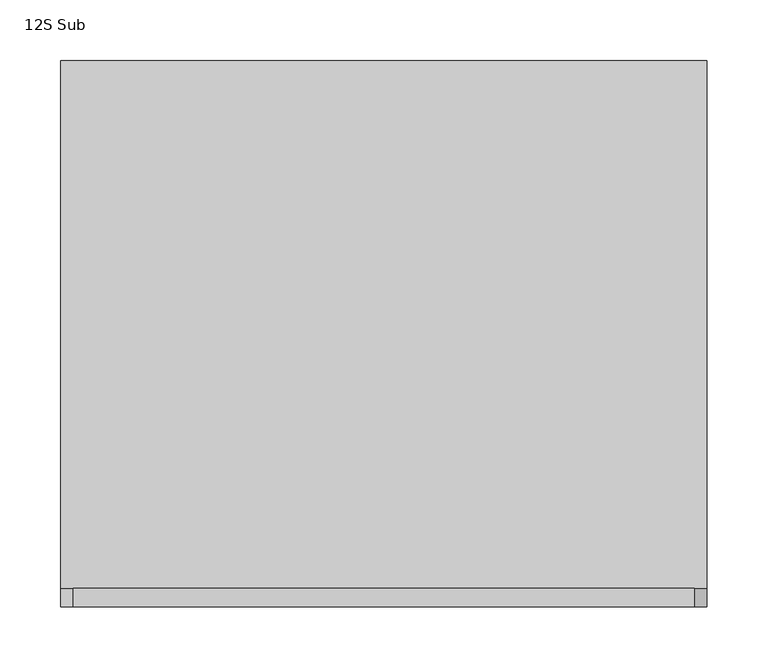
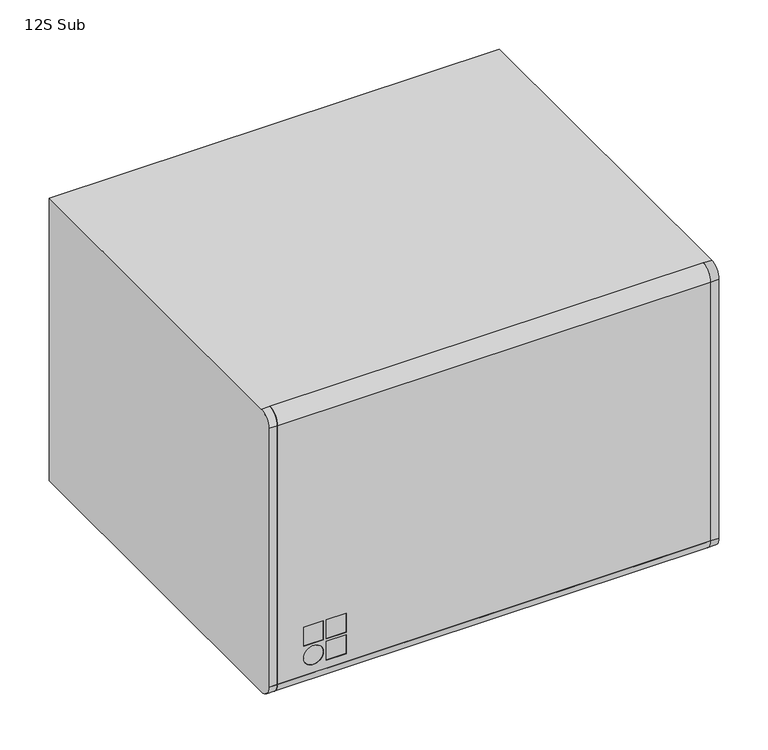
"""IFC4 building model written with IfcOpenShell, lengths in millimetres: proxy geometry, d&b xS-Series 12S Subwoofer : 12S Sub."""

from ifc_helpers import new_model, si_unit, point, frame, frame_2d, origin, place, context, project, spatial, polyline, circle_curve, trimmed, segment, composite_curve, outline, extrude, source, transform, mapped, element, save
from ifc_brep_helpers import plane_surface, cylinder_surface, revolved_surface, advanced_brep


def proxy_12s_sub_2a9edee9(model_context):
    return source(origin(), model_context, "Body", "SolidModel", [
        advanced_brep(
        [(255.0, -224.0, -161.0), (255.0, -209.0, -176.0), (255.0, -209.0, -171.0), (255.0, -219.0, -161.0), (255.0, -219.0, 161.0), (255.0, -209.0, 171.0), (255.0, -209.0, 176.0), (255.0, -224.0, 161.0), (-255.0, -224.0, -161.0), (-255.0, -224.0, 161.0), (-255.0, -209.0, 176.0), (-255.0, -209.0, 171.0), (-255.0, -219.0, 161.0), (-255.0, -219.0, -161.0), (-255.0, -209.0, -171.0), (-255.0, -209.0, -176.0), (-200.6666667, -224.0, -101.0), (-200.6666667, -224.0, -124.3333333), (-224.0, -224.0, -124.3333333), (-224.0, -224.0, -101.0), (-174.0, -224.0, -101.0), (-174.0, -224.0, -124.3333333), (-197.3333333, -224.0, -124.3333333), (-197.3333333, -224.0, -101.0), (-174.0, -224.0, -127.6666667), (-174.0, -224.0, -151.0), (-197.3333333, -224.0, -151.0), (-197.3333333, -224.0, -127.6666667), (-224.0, -224.0, -139.3333333), (-200.6666667, -224.0, -139.3333333), (-200.6666667, -219.0, -124.3333333), (-200.6666667, -219.0, -101.0), (-224.0, -219.0, -101.0), (-224.0, -219.0, -124.3333333), (-174.0, -219.0, -124.3333333), (-174.0, -219.0, -101.0), (-197.3333333, -219.0, -101.0), (-197.3333333, -219.0, -124.3333333), (-174.0, -219.0, -151.0), (-174.0, -219.0, -127.6666667), (-197.3333333, -219.0, -127.6666667), (-197.3333333, -219.0, -151.0), (-200.6666667, -219.0, -139.3333333), (-224.0, -219.0, -139.3333333)],
        [
            (0, 1, circle_curve(frame((255.0, -209.0, -161.0), z_axis=(1.0, 0.0, 0.0), x_axis=(0.0, 1.0, 0.0)), 15.0)),
            (1, 2),
            (2, 3, circle_curve(frame((255.0, -209.0, -161.0), z_axis=(-1.0, 0.0, 0.0), x_axis=(0.0, 1.0, 0.0)), 10.0)),
            (3, 4),
            (4, 5, circle_curve(frame((255.0, -209.0, 161.0), z_axis=(-1.0, 0.0, 0.0), x_axis=(0.0, 1.0, 0.0)), 10.0)),
            (5, 6),
            (6, 7, circle_curve(frame((255.0, -209.0, 161.0), z_axis=(1.0, 0.0, 0.0), x_axis=(0.0, 1.0, 0.0)), 15.0)),
            (7, 0),
            (8, 9),
            (9, 10, circle_curve(frame((-255.0, -209.0, 161.0), z_axis=(-1.0, 0.0, 0.0), x_axis=(0.0, 1.0, 0.0)), 15.0)),
            (10, 11),
            (11, 12, circle_curve(frame((-255.0, -209.0, 161.0), z_axis=(1.0, 0.0, 0.0), x_axis=(0.0, 1.0, 0.0)), 10.0)),
            (12, 13),
            (13, 14, circle_curve(frame((-255.0, -209.0, -161.0), z_axis=(1.0, 0.0, 0.0), x_axis=(0.0, 1.0, 0.0)), 10.0)),
            (14, 15),
            (15, 8, circle_curve(frame((-255.0, -209.0, -161.0), z_axis=(-1.0, 0.0, 0.0), x_axis=(0.0, 1.0, 0.0)), 15.0)),
            (6, 10),
            (9, 7),
            (8, 0),
            (16, 17),
            (17, 18),
            (18, 19),
            (19, 16),
            (20, 21),
            (21, 22),
            (22, 23),
            (23, 20),
            (24, 25),
            (25, 26),
            (26, 27),
            (27, 24),
            (28, 29, circle_curve(frame((-212.3333333, -224.0, -139.3333333), z_axis=(0.0, 1.0, 0.0), x_axis=(1.0, 0.0, 0.0)), 11.6666667)),
            (29, 28, circle_curve(frame((-212.3333333, -224.0, -139.3333333), z_axis=(0.0, 1.0, 0.0), x_axis=(1.0, 0.0, 0.0)), 11.6666667)),
            (15, 1),
            (14, 2),
            (13, 3),
            (12, 4),
            (30, 31),
            (31, 32),
            (32, 33),
            (33, 30),
            (34, 35),
            (35, 36),
            (36, 37),
            (37, 34),
            (38, 39),
            (39, 40),
            (40, 41),
            (41, 38),
            (42, 43, circle_curve(frame((-212.3333333, -219.0, -139.3333333), z_axis=(0.0, -1.0, 0.0), x_axis=(1.0, 0.0, 0.0)), 11.6666667)),
            (43, 42, circle_curve(frame((-212.3333333, -219.0, -139.3333333), z_axis=(0.0, -1.0, 0.0), x_axis=(1.0, 0.0, 0.0)), 11.6666667)),
            (11, 5),
            (16, 31),
            (30, 17),
            (33, 18),
            (32, 19),
            (20, 35),
            (34, 21),
            (37, 22),
            (36, 23),
            (24, 39),
            (38, 25),
            (41, 26),
            (40, 27),
            (28, 43),
            (42, 29),
        ],
        [
            plane_surface(frame((255.0, -194.0, -161.0), z_axis=(1.0, 0.0, 0.0), x_axis=(0.0, 0.0, 1.0))),
            plane_surface(frame((-255.0, -194.0, -161.0), z_axis=(-1.0, 0.0, 0.0), x_axis=(0.0, 0.0, -1.0))),
            cylinder_surface(frame((-255.0, -209.0, 161.0), z_axis=(1.0, 0.0, 0.0), x_axis=(0.0, 1.0, 0.0)), 15.0),
            plane_surface(frame((255.0, -224.0, 161.0), z_axis=(0.0, -1.0, 0.0), x_axis=(-1.0, 0.0, 0.0))),
            cylinder_surface(frame((-255.0, -209.0, -161.0), z_axis=(1.0, 0.0, 0.0), x_axis=(0.0, 1.0, 0.0)), 15.0),
            plane_surface(frame((255.0, -209.0, -176.0), z_axis=(0.0, 1.0, 0.0), x_axis=(-1.0, 0.0, 0.0))),
            revolved_surface(polyline([(-255.0, -199.0, -161.0), (255.0, -199.0, -161.0)]), (-255.0, -209.0, -161.0), (-1.0, 0.0, 0.0)),
            plane_surface(frame((255.0, -219.0, -161.0), z_axis=(0.0, 1.0, 0.0), x_axis=(-1.0, 0.0, 0.0))),
            revolved_surface(polyline([(-255.0, -199.0, 161.0), (255.0, -199.0, 161.0)]), (-255.0, -209.0, 161.0), (-1.0, 0.0, 0.0)),
            plane_surface(frame((255.0, -209.0, 171.0), z_axis=(0.0, 1.0, 0.0), x_axis=(-1.0, 0.0, 0.0))),
            plane_surface(frame((-200.6666667, -224.0, -124.3333333), z_axis=(-1.0, 0.0, 0.0), x_axis=(0.0, 1.0, 0.0))),
            plane_surface(frame((-224.0, -224.0, -124.3333333), z_axis=(0.0, 0.0, 1.0), x_axis=(0.0, 1.0, 0.0))),
            plane_surface(frame((-224.0, -224.0, -101.0), z_axis=(1.0, 0.0, 0.0), x_axis=(0.0, 1.0, 0.0))),
            plane_surface(frame((-200.6666667, -224.0, -101.0), z_axis=(0.0, 0.0, -1.0), x_axis=(0.0, 1.0, 0.0))),
            plane_surface(frame((-174.0, -224.0, -124.3333333), z_axis=(-1.0, 0.0, 0.0), x_axis=(0.0, 1.0, 0.0))),
            plane_surface(frame((-197.3333333, -224.0, -124.3333333), z_axis=(0.0, 0.0, 1.0), x_axis=(0.0, 1.0, 0.0))),
            plane_surface(frame((-197.3333333, -224.0, -101.0), z_axis=(1.0, 0.0, 0.0), x_axis=(0.0, 1.0, 0.0))),
            plane_surface(frame((-174.0, -224.0, -101.0), z_axis=(0.0, 0.0, -1.0), x_axis=(0.0, 1.0, 0.0))),
            plane_surface(frame((-174.0, -224.0, -151.0), z_axis=(-1.0, 0.0, 0.0), x_axis=(0.0, 1.0, 0.0))),
            plane_surface(frame((-197.3333333, -224.0, -151.0), z_axis=(0.0, 0.0, 1.0), x_axis=(0.0, 1.0, 0.0))),
            plane_surface(frame((-197.3333333, -224.0, -127.6666667), z_axis=(1.0, 0.0, 0.0), x_axis=(0.0, 1.0, 0.0))),
            plane_surface(frame((-174.0, -224.0, -127.6666667), z_axis=(0.0, 0.0, -1.0), x_axis=(0.0, 1.0, 0.0))),
            revolved_surface(polyline([(-200.66666659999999, -224.0, -139.3333333), (-200.66666659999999, -219.0, -139.3333333)]), (-212.3333333, -224.0, -139.3333333), (0.0, -1.0, 0.0)),
        ],
        [
            (0, [[1, 2, 3, 4, 5, 6, 7, 8]]),
            (1, [[9, 10, 11, 12, 13, 14, 15, 16]]),
            (2, [[-7, 17, -10, 18]]),
            (3, [[-8, -18, -9, 19], [20, 21, 22, 23], [24, 25, 26, 27], [28, 29, 30, 31], [32, 33]]),
            (4, [[-1, -19, -16, 34]]),
            (5, [[-2, -34, -15, 35]]),
            (6, [[-3, -35, -14, 36]]),
            (7, [[-4, -36, -13, 37], [38, 39, 40, 41], [42, 43, 44, 45], [46, 47, 48, 49], [50, 51]]),
            (8, [[-5, -37, -12, 52]]),
            (9, [[-6, -52, -11, -17]]),
            (10, [[53, -38, 54, -20]]),
            (11, [[-54, -41, 55, -21]]),
            (12, [[-55, -40, 56, -22]]),
            (13, [[-53, -23, -56, -39]]),
            (14, [[57, -42, 58, -24]]),
            (15, [[-58, -45, 59, -25]]),
            (16, [[-59, -44, 60, -26]]),
            (17, [[-57, -27, -60, -43]]),
            (18, [[61, -46, 62, -28]]),
            (19, [[-62, -49, 63, -29]]),
            (20, [[-63, -48, 64, -30]]),
            (21, [[-61, -31, -64, -47]]),
            (22, [[65, -50, 66, -32]]),
            (22, [[-65, -33, -66, -51]]),
        ],
    ),
        extrude(outline(composite_curve([segment(trimmed(circle_curve(frame_2d((-220.0, 189.0)), 18.25), [point((-201.75, 189.0))], [point((-238.25, 189.0))], False, "CARTESIAN"), True, "CONTINUOUS"), segment(trimmed(circle_curve(frame_2d((-220.0, 189.0)), 18.25), [point((-238.25, 189.0))], [point((-201.75, 189.0))], False, "CARTESIAN"), True, "CONTINUOUS")], self_intersect=False)), frame((0.0, 0.0, -178.0), z_axis=(0.0, 0.0, 1.0), x_axis=(1.0, 0.0, 0.0)), (0.0, 0.0, 1.0), 2.0),
        extrude(outline(composite_curve([segment(trimmed(circle_curve(frame_2d((220.0, 189.0)), 18.25), [point((238.25, 189.0))], [point((201.75, 189.0))], False, "CARTESIAN"), True, "CONTINUOUS"), segment(trimmed(circle_curve(frame_2d((220.0, 189.0)), 18.25), [point((201.75, 189.0))], [point((238.25, 189.0))], False, "CARTESIAN"), True, "CONTINUOUS")], self_intersect=False)), frame((0.0, 0.0, -178.0), z_axis=(0.0, 0.0, 1.0), x_axis=(1.0, 0.0, 0.0)), (0.0, 0.0, 1.0), 2.0),
        extrude(outline(composite_curve([segment(trimmed(circle_curve(frame_2d((-220.0, -165.5)), 18.25), [point((-201.75, -165.5))], [point((-238.25, -165.5))], False, "CARTESIAN"), True, "CONTINUOUS"), segment(trimmed(circle_curve(frame_2d((-220.0, -165.5)), 18.25), [point((-238.25, -165.5))], [point((-201.75, -165.5))], False, "CARTESIAN"), True, "CONTINUOUS")], self_intersect=False)), frame((0.0, 0.0, -178.0), z_axis=(0.0, 0.0, 1.0), x_axis=(1.0, 0.0, 0.0)), (0.0, 0.0, 1.0), 2.0),
        extrude(outline(composite_curve([segment(trimmed(circle_curve(frame_2d((220.0, -165.5)), 18.25), [point((238.25, -165.5))], [point((201.75, -165.5))], False, "CARTESIAN"), True, "CONTINUOUS"), segment(trimmed(circle_curve(frame_2d((220.0, -165.5)), 18.25), [point((201.75, -165.5))], [point((238.25, -165.5))], False, "CARTESIAN"), True, "CONTINUOUS")], self_intersect=False)), frame((0.0, 0.0, -178.0), z_axis=(0.0, 0.0, 1.0), x_axis=(1.0, 0.0, 0.0)), (0.0, 0.0, 1.0), 2.0),
        extrude(outline(polyline([(-200.6666667, -224.0), (-224.0, -224.0), (-224.0, -219.0), (-200.6666667, -219.0), (-200.6666667, -224.0)])), frame((0.0, 0.0, -124.3333333), z_axis=(0.0, 0.0, 1.0), x_axis=(1.0, 0.0, 0.0)), (0.0, 0.0, 1.0), 23.3333333),
        extrude(outline(polyline([(-174.0, -224.0), (-197.3333333, -224.0), (-197.3333333, -219.0), (-174.0, -219.0), (-174.0, -224.0)])), frame((0.0, 0.0, -124.3333333), z_axis=(0.0, 0.0, 1.0), x_axis=(1.0, 0.0, 0.0)), (0.0, 0.0, 1.0), 23.3333333),
        extrude(outline(polyline([(-174.0, -224.0), (-197.3333333, -224.0), (-197.3333333, -219.0), (-174.0, -219.0), (-174.0, -224.0)])), frame((0.0, 0.0, -151.0), z_axis=(0.0, 0.0, 1.0), x_axis=(1.0, 0.0, 0.0)), (0.0, 0.0, 1.0), 23.3333333),
        extrude(outline(composite_curve([segment(trimmed(circle_curve(frame_2d((-139.3333333, -212.3333333)), 11.6666667), [point((-139.3333333, -224.0))], [point((-139.3333333, -200.6666667))], False, "CARTESIAN"), True, "CONTINUOUS"), segment(trimmed(circle_curve(frame_2d((-139.3333333, -212.3333333)), 11.6666667), [point((-139.3333333, -200.6666667))], [point((-139.3333333, -224.0))], False, "CARTESIAN"), True, "CONTINUOUS")], self_intersect=False)), frame((0.0, -224.0, 0.0), z_axis=(0.0, 1.0, 0.0), x_axis=(0.0, 0.0, 1.0)), (0.0, 0.0, 1.0), 5.0),
        advanced_brep(
        [(255.0, -209.0, -176.0), (-255.0, -209.0, -176.0), (-265.0, -209.0, -176.0), (-265.0, 224.0, -176.0), (265.0, 224.0, -176.0), (265.0, -209.0, -176.0), (265.0, 224.0, 176.0), (-265.0, 224.0, 176.0), (45.0, 224.0, -145.0), (55.0, 224.0, -135.0), (55.0, 224.0, -85.0), (45.0, 224.0, -75.0), (-45.0, 224.0, -75.0), (-55.0, 224.0, -85.0), (-55.0, 224.0, -135.0), (-45.0, 224.0, -145.0), (-255.0, -209.0, 176.0), (255.0, -209.0, 176.0), (265.0, -209.0, 176.0), (-265.0, -209.0, 176.0), (-255.0, -209.0, 171.0), (255.0, -209.0, 171.0), (-255.0, -219.0, 161.0), (255.0, -219.0, 161.0), (-255.0, -219.0, -161.0), (255.0, -219.0, -161.0), (-255.0, -209.0, -171.0), (255.0, -209.0, -171.0), (255.0, -224.0, -161.0), (255.0, -224.0, 161.0), (265.0, -224.0, 161.0), (265.0, -224.0, -161.0), (-255.0, -224.0, 161.0), (-255.0, -224.0, -161.0), (-265.0, -224.0, -161.0), (-265.0, -224.0, 161.0), (55.0, 221.0, -135.0), (45.0, 221.0, -145.0), (-45.0, 221.0, -145.0), (-55.0, 221.0, -135.0), (-55.0, 221.0, -85.0), (-45.0, 221.0, -75.0), (45.0, 221.0, -75.0), (55.0, 221.0, -85.0), (35.0, 221.0, -85.0), (-35.0, 221.0, -85.0), (-45.0, 221.0, -95.0), (-45.0, 221.0, -125.0), (-35.0, 221.0, -135.0), (35.0, 221.0, -135.0), (45.0, 221.0, -125.0), (45.0, 221.0, -95.0), (-35.0, 211.0, -135.0), (-45.0, 211.0, -125.0), (-45.0, 211.0, -95.0), (-35.0, 211.0, -85.0), (-13.7960696, 211.0, -85.0), (-13.7960696, 211.0, -135.0), (35.0, 211.0, -135.0), (45.0, 211.0, -125.0), (35.0, 211.0, -85.0), (45.0, 211.0, -95.0), (-13.7960696, 176.0, -85.0), (35.0, 176.0, -85.0), (45.0, 176.0, -95.0), (45.0, 176.0, -125.0), (35.0, 176.0, -135.0), (-13.7960696, 176.0, -135.0)],
        [
            (0, 1),
            (1, 2),
            (2, 3),
            (3, 4),
            (4, 5),
            (5, 0),
            (6, 4),
            (3, 7),
            (7, 6),
            (8, 9, circle_curve(frame((45.0, 224.0, -135.0), z_axis=(0.0, -1.0, 0.0), x_axis=(-1.0, 0.0, 0.0)), 10.0)),
            (9, 10),
            (10, 11, circle_curve(frame((45.0, 224.0, -85.0), z_axis=(0.0, -1.0, 0.0), x_axis=(-1.0, 0.0, 0.0)), 10.0)),
            (11, 12),
            (12, 13, circle_curve(frame((-45.0, 224.0, -85.0), z_axis=(0.0, -1.0, 0.0), x_axis=(-1.0, 0.0, 0.0)), 10.0)),
            (13, 14),
            (14, 15, circle_curve(frame((-45.0, 224.0, -135.0), z_axis=(0.0, -1.0, 0.0), x_axis=(-1.0, 0.0, 0.0)), 10.0)),
            (15, 8),
            (16, 17),
            (17, 18),
            (18, 6),
            (7, 19),
            (19, 16),
            (16, 20),
            (20, 21),
            (21, 17),
            (20, 22, circle_curve(frame((-255.0, -209.0, 161.0), z_axis=(1.0, 0.0, 0.0), x_axis=(0.0, 1.0, 0.0)), 10.0)),
            (22, 23),
            (23, 21, circle_curve(frame((255.0, -209.0, 161.0), z_axis=(-1.0, 0.0, 0.0), x_axis=(0.0, 1.0, 0.0)), 10.0)),
            (22, 24),
            (24, 25),
            (25, 23),
            (24, 26, circle_curve(frame((-255.0, -209.0, -161.0), z_axis=(1.0, 0.0, 0.0), x_axis=(0.0, 1.0, 0.0)), 10.0)),
            (26, 27),
            (27, 25, circle_curve(frame((255.0, -209.0, -161.0), z_axis=(-1.0, 0.0, 0.0), x_axis=(0.0, 1.0, 0.0)), 10.0)),
            (0, 27),
            (26, 1),
            (0, 28, circle_curve(frame((255.0, -209.0, -161.0), z_axis=(-1.0, 0.0, 0.0), x_axis=(0.0, 1.0, 0.0)), 15.0)),
            (28, 29),
            (29, 17, circle_curve(frame((255.0, -209.0, 161.0), z_axis=(-1.0, 0.0, 0.0), x_axis=(0.0, 1.0, 0.0)), 15.0)),
            (18, 30, circle_curve(frame((265.0, -209.0, 161.0), z_axis=(1.0, 0.0, 0.0), x_axis=(0.0, 1.0, 0.0)), 15.0)),
            (30, 31),
            (31, 5, circle_curve(frame((265.0, -209.0, -161.0), z_axis=(1.0, 0.0, 0.0), x_axis=(0.0, 1.0, 0.0)), 15.0)),
            (29, 30),
            (28, 31),
            (16, 32, circle_curve(frame((-255.0, -209.0, 161.0), z_axis=(1.0, 0.0, 0.0), x_axis=(0.0, 1.0, 0.0)), 15.0)),
            (32, 33),
            (33, 1, circle_curve(frame((-255.0, -209.0, -161.0), z_axis=(1.0, 0.0, 0.0), x_axis=(0.0, 1.0, 0.0)), 15.0)),
            (2, 34, circle_curve(frame((-265.0, -209.0, -161.0), z_axis=(-1.0, 0.0, 0.0), x_axis=(0.0, 1.0, 0.0)), 15.0)),
            (34, 35),
            (35, 19, circle_curve(frame((-265.0, -209.0, 161.0), z_axis=(-1.0, 0.0, 0.0), x_axis=(0.0, 1.0, 0.0)), 15.0)),
            (35, 32),
            (34, 33),
            (36, 37, circle_curve(frame((45.0, 221.0, -135.0), z_axis=(0.0, 1.0, 0.0), x_axis=(-1.0, 0.0, 0.0)), 10.0)),
            (37, 38),
            (38, 39, circle_curve(frame((-45.0, 221.0, -135.0), z_axis=(0.0, 1.0, 0.0), x_axis=(-1.0, 0.0, 0.0)), 10.0)),
            (39, 40),
            (40, 41, circle_curve(frame((-45.0, 221.0, -85.0), z_axis=(0.0, 1.0, 0.0), x_axis=(-1.0, 0.0, 0.0)), 10.0)),
            (41, 42),
            (42, 43, circle_curve(frame((45.0, 221.0, -85.0), z_axis=(0.0, 1.0, 0.0), x_axis=(-1.0, 0.0, 0.0)), 10.0)),
            (43, 36),
            (44, 45),
            (45, 46, circle_curve(frame((-35.0, 221.0, -95.0), z_axis=(0.0, -1.0, 0.0), x_axis=(-1.0, 0.0, 0.0)), 10.0)),
            (46, 47),
            (47, 48, circle_curve(frame((-35.0, 221.0, -125.0), z_axis=(0.0, -1.0, 0.0), x_axis=(-1.0, 0.0, 0.0)), 10.0)),
            (48, 49),
            (49, 50, circle_curve(frame((35.0, 221.0, -125.0), z_axis=(0.0, -1.0, 0.0), x_axis=(-1.0, 0.0, 0.0)), 10.0)),
            (50, 51),
            (51, 44, circle_curve(frame((35.0, 221.0, -95.0), z_axis=(0.0, -1.0, 0.0), x_axis=(-1.0, 0.0, 0.0)), 10.0)),
            (36, 9),
            (8, 37),
            (15, 38),
            (14, 39),
            (13, 40),
            (12, 41),
            (11, 42),
            (10, 43),
            (52, 53, circle_curve(frame((-35.0, 211.0, -125.0), z_axis=(0.0, 1.0, 0.0), x_axis=(-1.0, 0.0, 0.0)), 10.0)),
            (53, 54),
            (54, 55, circle_curve(frame((-35.0, 211.0, -95.0), z_axis=(0.0, 1.0, 0.0), x_axis=(-1.0, 0.0, 0.0)), 10.0)),
            (55, 56),
            (56, 57),
            (57, 52),
            (54, 46),
            (45, 55),
            (53, 47),
            (52, 48),
            (49, 58),
            (58, 59, circle_curve(frame((35.0, 211.0, -125.0), z_axis=(0.0, -1.0, 0.0), x_axis=(-1.0, 0.0, 0.0)), 10.0)),
            (59, 50),
            (60, 44),
            (51, 61),
            (61, 60, circle_curve(frame((35.0, 211.0, -95.0), z_axis=(0.0, -1.0, 0.0), x_axis=(-1.0, 0.0, 0.0)), 10.0)),
            (62, 63),
            (63, 64, circle_curve(frame((35.0, 176.0, -95.0), z_axis=(0.0, 1.0, 0.0), x_axis=(-1.0, 0.0, 0.0)), 10.0)),
            (64, 65),
            (65, 66, circle_curve(frame((35.0, 176.0, -125.0), z_axis=(0.0, 1.0, 0.0), x_axis=(-1.0, 0.0, 0.0)), 10.0)),
            (66, 67),
            (67, 62),
            (67, 57),
            (56, 62),
            (60, 63),
            (61, 64),
            (59, 65),
            (58, 66),
        ],
        [
            plane_surface(frame((255.0, -209.0, -176.0), z_axis=(0.0, 0.0, -1.0), x_axis=(-1.0, 0.0, 0.0))),
            plane_surface(frame((255.0, 224.0, -176.0), z_axis=(0.0, 1.0, 0.0), x_axis=(-1.0, 0.0, 0.0))),
            plane_surface(frame((255.0, 224.0, 176.0), z_axis=(0.0, 0.0, 1.0), x_axis=(-1.0, 0.0, 0.0))),
            plane_surface(frame((255.0, -209.0, 176.0), z_axis=(0.0, -1.0, 0.0), x_axis=(-1.0, 0.0, 0.0))),
            cylinder_surface(frame((-255.0, -209.0, 161.0), z_axis=(1.0, 0.0, 0.0), x_axis=(0.0, 1.0, 0.0)), 10.0),
            plane_surface(frame((255.0, -219.0, 161.0), z_axis=(0.0, -1.0, 0.0), x_axis=(-1.0, 0.0, 0.0))),
            cylinder_surface(frame((-255.0, -209.0, -161.0), z_axis=(1.0, 0.0, 0.0), x_axis=(0.0, 1.0, 0.0)), 10.0),
            plane_surface(frame((255.0, -209.0, -171.0), z_axis=(0.0, -1.0, 0.0), x_axis=(-1.0, 0.0, 0.0))),
            plane_surface(frame((255.0, 265.5, 176.0), z_axis=(-1.0, 0.0, 0.0), x_axis=(0.0, 1.0, 0.0))),
            plane_surface(frame((265.0, 265.5, 176.0), z_axis=(1.0, 0.0, 0.0), x_axis=(0.0, -1.0, 0.0))),
            cylinder_surface(frame((265.0, -209.0, 161.0), z_axis=(-1.0, 0.0, 0.0), x_axis=(0.0, 1.0, 0.0)), 15.0),
            plane_surface(frame((255.0, -224.0, -161.0), z_axis=(0.0, -1.0, 0.0), x_axis=(1.0, 0.0, 0.0))),
            cylinder_surface(frame((265.0, -209.0, -161.0), z_axis=(-1.0, 0.0, 0.0), x_axis=(0.0, 1.0, 0.0)), 15.0),
            plane_surface(frame((-255.0, -194.0, 161.0), z_axis=(1.0, 0.0, 0.0), x_axis=(0.0, 0.0, 1.0))),
            plane_surface(frame((-265.0, -194.0, 161.0), z_axis=(-1.0, 0.0, 0.0), x_axis=(0.0, 0.0, -1.0))),
            cylinder_surface(frame((-265.0, -209.0, 161.0), z_axis=(1.0, 0.0, 0.0), x_axis=(0.0, 1.0, 0.0)), 15.0),
            plane_surface(frame((-255.0, -224.0, 161.0), z_axis=(0.0, -1.0, 0.0), x_axis=(-1.0, 0.0, 0.0))),
            cylinder_surface(frame((-265.0, -209.0, -161.0), z_axis=(1.0, 0.0, 0.0), x_axis=(0.0, 1.0, 0.0)), 15.0),
            plane_surface(frame((35.0, 221.0, -135.0), z_axis=(0.0, 1.0, 0.0), x_axis=(0.0, 0.0, -1.0))),
            revolved_surface(polyline([(35.0, 224.0, -135.0), (35.0, 221.0, -135.0)]), (45.0, 221.0, -135.0), (0.0, 1.0, 0.0)),
            plane_surface(frame((45.0, 224.0, -145.0), z_axis=(0.0, 0.0, 1.0), x_axis=(0.0, -1.0, 0.0))),
            revolved_surface(polyline([(-55.0, 224.0, -135.0), (-55.0, 221.0, -135.0)]), (-45.0, 221.0, -135.0), (0.0, 1.0, 0.0)),
            plane_surface(frame((-55.0, 224.0, -135.0), z_axis=(1.0, 0.0, 0.0), x_axis=(0.0, -1.0, 0.0))),
            revolved_surface(polyline([(-55.0, 224.0, -85.0), (-55.0, 221.0, -85.0)]), (-45.0, 221.0, -85.0), (0.0, 1.0, 0.0)),
            plane_surface(frame((-45.0, 224.0, -75.0), z_axis=(0.0, 0.0, -1.0), x_axis=(0.0, -1.0, 0.0))),
            revolved_surface(polyline([(35.0, 224.0, -85.0), (35.0, 221.0, -85.0)]), (45.0, 221.0, -85.0), (0.0, 1.0, 0.0)),
            plane_surface(frame((55.0, 224.0, -85.0), z_axis=(-1.0, 0.0, 0.0), x_axis=(0.0, -1.0, 0.0))),
            plane_surface(frame((25.0, 211.0, -95.0), z_axis=(0.0, 1.0, 0.0), x_axis=(0.0, 0.0, -1.0))),
            revolved_surface(polyline([(-45.0, 221.0, -95.0), (-45.0, 211.0, -95.0)]), (-35.0, 211.0, -95.0), (0.0, 1.0, 0.0)),
            plane_surface(frame((-45.0, 221.0, -125.0), z_axis=(1.0, 0.0, 0.0), x_axis=(0.0, -1.0, 0.0))),
            revolved_surface(polyline([(-45.0, 221.0, -125.0), (-45.0, 211.0, -125.0)]), (-35.0, 211.0, -125.0), (0.0, 1.0, 0.0)),
            revolved_surface(polyline([(25.0, 221.0, -125.0), (25.0, 211.0, -125.0)]), (35.0, 211.0, -125.0), (0.0, 1.0, 0.0)),
            revolved_surface(polyline([(25.0, 221.0, -95.0), (25.0, 211.0, -95.0)]), (35.0, 211.0, -95.0), (0.0, 1.0, 0.0)),
            plane_surface(frame((35.0, 176.0, -85.0), z_axis=(0.0, 1.0, 0.0), x_axis=(-1.0, 0.0, 0.0))),
            plane_surface(frame((-13.7960696, 211.0, -135.0), z_axis=(1.0, 0.0, 0.0), x_axis=(0.0, -1.0, 0.0))),
            plane_surface(frame((-13.7960696, 211.0, -85.0), z_axis=(0.0, 0.0, -1.0), x_axis=(0.0, -1.0, 0.0))),
            revolved_surface(polyline([(25.0, 211.0, -95.0), (25.0, 176.0, -95.0)]), (35.0, 176.0, -95.0), (0.0, 1.0, 0.0)),
            plane_surface(frame((45.0, 211.0, -95.0), z_axis=(-1.0, 0.0, 0.0), x_axis=(0.0, -1.0, 0.0))),
            revolved_surface(polyline([(25.0, 211.0, -125.0), (25.0, 176.0, -125.0)]), (35.0, 176.0, -125.0), (0.0, 1.0, 0.0)),
            plane_surface(frame((35.0, 211.0, -135.0), z_axis=(0.0, 0.0, 1.0), x_axis=(0.0, -1.0, 0.0))),
        ],
        [
            (0, [[1, 2, 3, 4, 5, 6]]),
            (1, [[7, -4, 8, 9], [10, 11, 12, 13, 14, 15, 16, 17]]),
            (2, [[18, 19, 20, -9, 21, 22]]),
            (3, [[-18, 23, 24, 25]]),
            (4, [[-24, 26, 27, 28]]),
            (5, [[-27, 29, 30, 31]]),
            (6, [[-30, 32, 33, 34]]),
            (7, [[-1, 35, -33, 36]]),
            (8, [[37, 38, 39, -25, -28, -31, -34, -35]]),
            (9, [[40, 41, 42, -5, -7, -20]]),
            (10, [[-39, 43, -40, -19]]),
            (11, [[-38, 44, -41, -43]]),
            (12, [[-37, -6, -42, -44]]),
            (13, [[45, 46, 47, -36, -32, -29, -26, -23]]),
            (14, [[-21, -8, -3, 48, 49, 50]]),
            (15, [[-45, -22, -50, 51]]),
            (16, [[-46, -51, -49, 52]]),
            (17, [[-47, -52, -48, -2]]),
            (18, [[53, 54, 55, 56, 57, 58, 59, 60], [61, 62, 63, 64, 65, 66, 67, 68]]),
            (19, [[-53, 69, -10, 70]]),
            (20, [[-54, -70, -17, 71]]),
            (21, [[-55, -71, -16, 72]]),
            (22, [[-56, -72, -15, 73]]),
            (23, [[-57, -73, -14, 74]]),
            (24, [[-58, -74, -13, 75]]),
            (25, [[-59, -75, -12, 76]]),
            (26, [[-60, -76, -11, -69]]),
            (27, [[77, 78, 79, 80, 81, 82]]),
            (28, [[-79, 83, -62, 84]]),
            (29, [[-78, 85, -63, -83]]),
            (30, [[-77, 86, -64, -85]]),
            (31, [[87, 88, 89, -66]]),
            (32, [[90, -68, 91, 92]]),
            (33, [[93, 94, 95, 96, 97, 98]]),
            (34, [[-98, 99, -81, 100]]),
            (35, [[-93, -100, -80, -84, -61, -90, 101]]),
            (36, [[-94, -101, -92, 102]]),
            (37, [[-95, -102, -91, -67, -89, 103]]),
            (38, [[-96, -103, -88, 104]]),
            (39, [[-97, -104, -87, -65, -86, -82, -99]]),
        ],
    ),
    ])


if __name__ == "__main__":
    model = new_model("IFC4")
    model_context = context("Model", 3, world=origin())
    ifc_project = project(units=[si_unit("LENGTHUNIT", "METRE", prefix="MILLI")], contexts=[model_context])
    site = spatial("IfcSite", under=ifc_project)
    building = spatial("IfcBuilding", under=site)
    placement = place(None, origin())
    proxy_12s_sub_shape = proxy_12s_sub_2a9edee9(model_context)
    element("IfcBuildingElementProxy", 1, Name="d&b xS-Series 12S Subwoofer : 12S Sub", ObjectType="d&b xS-Series 12S Subwoofer : 12S Sub", at=placement, inside=building, context=model_context, shape_type="MappedRepresentation", body=[
        mapped(proxy_12s_sub_shape, transform((0.0, 0.0, 0.0), x_axis=(1.0, 0.0, 0.0), y_axis=(0.0, 1.0, 0.0), z_axis=(0.0, 0.0, 1.0))),
    ])
    save(model, "model.ifc")
